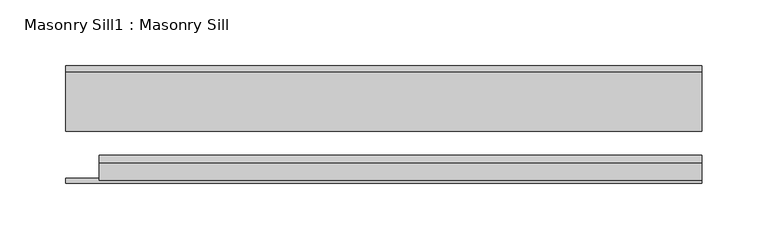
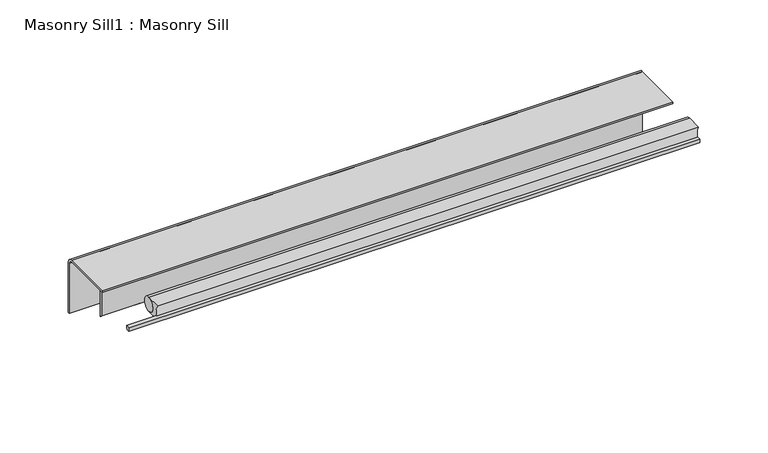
"""IFC4 building model written with IfcOpenShell, lengths in millimetres: proxy geometry, Masonry Sill1 : Masonry Sill."""

from ifc_helpers import new_model, si_unit, point, frame, frame_2d, origin, place, context, project, spatial, polyline, circle_curve, trimmed, segment, composite_curve, outline, extrude, source, transform, mapped, element, save


def masonry_sill1_masonry_sill_ddc70cea(model_context):
    return source(origin(), model_context, "Body", "SweptSolid", [
        extrude(outline(composite_curve([segment(polyline([(-279.4, 553.651901), (-279.4, 540.951901)]), True, "CONTINUOUS"), segment(trimmed(circle_curve(frame_2d((-285.75, 529.9533784)), 12.7), [point((-279.4, 540.951901))], [point((-292.1, 540.951901))], True, "CARTESIAN"), True, "CONTINUOUS"), segment(polyline([(-292.1, 540.951901), (-292.1, 553.651901)]), True, "CONTINUOUS"), segment(trimmed(circle_curve(frame_2d((-285.75, 553.651901)), 6.35), [point((-292.1, 553.651901))], [point((-279.4, 553.651901))], True, "CARTESIAN"), True, "CONTINUOUS")], self_intersect=False)), frame((27098.7726773, 0.0, 0.0), z_axis=(-1.0, 0.0, 0.0), x_axis=(0.0, 0.0, 1.0)), (0.0, 0.0, 1.0), 457.2),
        extrude(outline(composite_curve([segment(trimmed(circle_curve(frame_2d((553.651901, -285.75)), 6.35), [point((553.651901, -292.1))], [point((553.651901, -279.4))], False, "CARTESIAN"), True, "CONTINUOUS"), segment(trimmed(circle_curve(frame_2d((553.651901, -285.75)), 6.35), [point((553.651901, -279.4))], [point((553.651901, -292.1))], False, "CARTESIAN"), True, "CONTINUOUS")], self_intersect=False)), frame((26641.5726773, 0.0, 0.0), z_axis=(1.0, 0.0, 0.0), x_axis=(0.0, 1.0, 0.0)), (0.0, 0.0, 1.0), 457.2),
        extrude(outline(composite_curve([segment(polyline([(540.951901, -292.1), (538.7629049, -292.1), (538.7629049, -288.9140378), (542.2665508, -288.9140378)]), True, "CONTINUOUS"), segment(trimmed(circle_curve(frame_2d((529.9780063, -285.7075329)), 12.7), [point((542.2665508, -288.9140378))], [point((540.951901, -292.1))], False, "CARTESIAN"), True, "CONTINUOUS")], self_intersect=False)), frame((26616.1726773, 0.0, 0.0), z_axis=(1.0, 0.0, 0.0), x_axis=(0.0, 1.0, 0.0)), (0.0, 0.0, 1.0), 482.6),
        extrude(outline(polyline([(624.4566297, -339.609801), (622.8691297, -338.022301), (622.8691297, -285.75), (624.4566297, -285.75), (624.4566297, -339.609801)])), frame((26641.5726773, 0.0, 0.0), z_axis=(1.0, 0.0, 0.0), x_axis=(0.0, 1.0, 0.0)), (0.0, 0.0, 1.0), 457.2),
        extrude(outline(composite_curve([segment(trimmed(circle_curve(frame_2d((622.8691297, -284.1625)), 4.7625), [point((622.8691297, -279.4))], [point((627.6316297, -284.1625))], False, "CARTESIAN"), True, "CONTINUOUS"), segment(polyline([(627.6316297, -284.1625), (627.6316297, -329.1110308), (626.0441297, -329.1110308), (626.0441297, -284.1625)]), True, "CONTINUOUS"), segment(trimmed(circle_curve(frame_2d((622.8691297, -284.1625)), 3.175), [point((626.0441297, -284.1625))], [point((622.8691297, -280.9875))], True, "CARTESIAN"), True, "CONTINUOUS"), segment(polyline([(622.8691297, -280.9875), (577.9205988, -280.9875), (577.9205988, -279.4), (622.8691297, -279.4)]), True, "CONTINUOUS")], self_intersect=False)), frame((26616.1726773, 0.0, 0.0), z_axis=(1.0, 0.0, 0.0), x_axis=(0.0, 1.0, 0.0)), (0.0, 0.0, 1.0), 482.6),
    ])


if __name__ == "__main__":
    model = new_model("IFC4")
    model_context = context("Model", 3, world=origin())
    ifc_project = project(units=[si_unit("LENGTHUNIT", "METRE", prefix="MILLI")], contexts=[model_context])
    site = spatial("IfcSite", under=ifc_project)
    building = spatial("IfcBuilding", under=site)
    placement = place(None, origin())
    masonry_sill1_masonry_sill_shape = masonry_sill1_masonry_sill_ddc70cea(model_context)
    element("IfcBuildingElementProxy", 1, Name="Masonry Sill1 : Masonry Sill", ObjectType="Masonry Sill1 : Masonry Sill", at=placement, inside=building, context=model_context, shape_type="MappedRepresentation", body=[
        mapped(masonry_sill1_masonry_sill_shape, transform((0.0, 0.0, 0.0), x_axis=(1.0, 0.0, 0.0), y_axis=(0.0, 1.0, 0.0), z_axis=(0.0, 0.0, 1.0))),
    ])
    save(model, "model.ifc")
